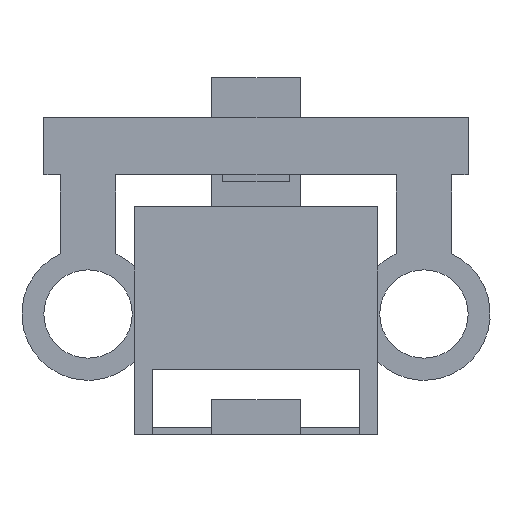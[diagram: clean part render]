
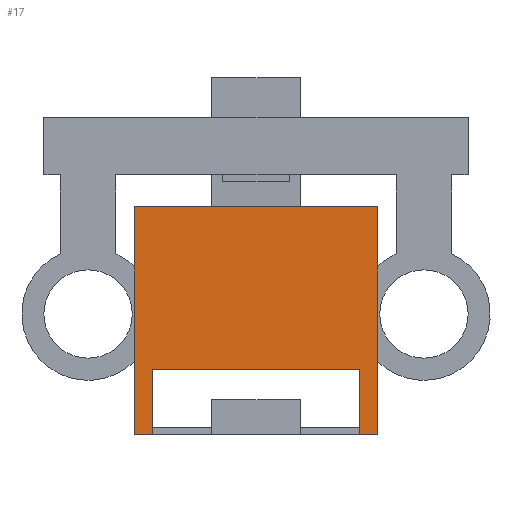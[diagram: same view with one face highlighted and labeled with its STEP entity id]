
A CAD part, left-side view. The second image highlights one B-rep face of the part: STEP entity #17.
In plain terms, the highlighted planar face has unit normal (-1, 0, 0).
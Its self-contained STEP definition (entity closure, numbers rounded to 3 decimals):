
#17 = ADVANCED_FACE('',(#18),#32,.F.);
#18 = FACE_BOUND('',#19,.F.);
#19 = EDGE_LOOP('',(#20,#55,#83,#111,#139,#167,#195,#218));
#20 = ORIENTED_EDGE('',*,*,#21,.F.);
#21 = EDGE_CURVE('',#22,#24,#26,.T.);
#22 = VERTEX_POINT('',#23);
#23 = CARTESIAN_POINT('',(32.5,24.5,4.85));
#24 = VERTEX_POINT('',#25);
#25 = CARTESIAN_POINT('',(32.5,35.5,4.85));
#26 = SURFACE_CURVE('',#27,(#31,#43),.PCURVE_S1.);
#27 = LINE('',#28,#29);
#28 = CARTESIAN_POINT('',(32.5,24.5,4.85));
#29 = VECTOR('',#30,1.);
#30 = DIRECTION('',(0.,1.,0.));
#31 = PCURVE('',#32,#37);
#32 = PLANE('',#33);
#33 = AXIS2_PLACEMENT_3D('',#34,#35,#36);
#34 = CARTESIAN_POINT('',(32.5,24.5,-5.45));
#35 = DIRECTION('',(1.,0.,0.));
#36 = DIRECTION('',(0.,0.,1.));
#37 = DEFINITIONAL_REPRESENTATION('',(#38),#42);
#38 = LINE('',#39,#40);
#39 = CARTESIAN_POINT('',(10.3,0.));
#40 = VECTOR('',#41,1.);
#41 = DIRECTION('',(0.,-1.));
#42 = ( GEOMETRIC_REPRESENTATION_CONTEXT(2) 
PARAMETRIC_REPRESENTATION_CONTEXT() REPRESENTATION_CONTEXT('2D SPACE',''
  ) );
#43 = PCURVE('',#44,#49);
#44 = PLANE('',#45);
#45 = AXIS2_PLACEMENT_3D('',#46,#47,#48);
#46 = CARTESIAN_POINT('',(32.5,24.5,4.85));
#47 = DIRECTION('',(0.,0.,1.));
#48 = DIRECTION('',(1.,0.,-0.));
#49 = DEFINITIONAL_REPRESENTATION('',(#50),#54);
#50 = LINE('',#51,#52);
#51 = CARTESIAN_POINT('',(0.,0.));
#52 = VECTOR('',#53,1.);
#53 = DIRECTION('',(0.,1.));
#54 = ( GEOMETRIC_REPRESENTATION_CONTEXT(2) 
PARAMETRIC_REPRESENTATION_CONTEXT() REPRESENTATION_CONTEXT('2D SPACE',''
  ) );
#55 = ORIENTED_EDGE('',*,*,#56,.F.);
#56 = EDGE_CURVE('',#57,#22,#59,.T.);
#57 = VERTEX_POINT('',#58);
#58 = CARTESIAN_POINT('',(32.5,24.5,-5.45));
#59 = SURFACE_CURVE('',#60,(#64,#71),.PCURVE_S1.);
#60 = LINE('',#61,#62);
#61 = CARTESIAN_POINT('',(32.5,24.5,-5.45));
#62 = VECTOR('',#63,1.);
#63 = DIRECTION('',(0.,0.,1.));
#64 = PCURVE('',#32,#65);
#65 = DEFINITIONAL_REPRESENTATION('',(#66),#70);
#66 = LINE('',#67,#68);
#67 = CARTESIAN_POINT('',(0.,0.));
#68 = VECTOR('',#69,1.);
#69 = DIRECTION('',(1.,0.));
#70 = ( GEOMETRIC_REPRESENTATION_CONTEXT(2) 
PARAMETRIC_REPRESENTATION_CONTEXT() REPRESENTATION_CONTEXT('2D SPACE',''
  ) );
#71 = PCURVE('',#72,#77);
#72 = PLANE('',#73);
#73 = AXIS2_PLACEMENT_3D('',#74,#75,#76);
#74 = CARTESIAN_POINT('',(32.5,24.5,-5.45));
#75 = DIRECTION('',(0.,1.,0.));
#76 = DIRECTION('',(0.,-0.,1.));
#77 = DEFINITIONAL_REPRESENTATION('',(#78),#82);
#78 = LINE('',#79,#80);
#79 = CARTESIAN_POINT('',(0.,0.));
#80 = VECTOR('',#81,1.);
#81 = DIRECTION('',(1.,0.));
#82 = ( GEOMETRIC_REPRESENTATION_CONTEXT(2) 
PARAMETRIC_REPRESENTATION_CONTEXT() REPRESENTATION_CONTEXT('2D SPACE',''
  ) );
#83 = ORIENTED_EDGE('',*,*,#84,.T.);
#84 = EDGE_CURVE('',#57,#85,#87,.T.);
#85 = VERTEX_POINT('',#86);
#86 = CARTESIAN_POINT('',(32.5,25.3,-5.45));
#87 = SURFACE_CURVE('',#88,(#92,#99),.PCURVE_S1.);
#88 = LINE('',#89,#90);
#89 = CARTESIAN_POINT('',(32.5,24.5,-5.45));
#90 = VECTOR('',#91,1.);
#91 = DIRECTION('',(0.,1.,0.));
#92 = PCURVE('',#32,#93);
#93 = DEFINITIONAL_REPRESENTATION('',(#94),#98);
#94 = LINE('',#95,#96);
#95 = CARTESIAN_POINT('',(0.,0.));
#96 = VECTOR('',#97,1.);
#97 = DIRECTION('',(0.,-1.));
#98 = ( GEOMETRIC_REPRESENTATION_CONTEXT(2) 
PARAMETRIC_REPRESENTATION_CONTEXT() REPRESENTATION_CONTEXT('2D SPACE',''
  ) );
#99 = PCURVE('',#100,#105);
#100 = PLANE('',#101);
#101 = AXIS2_PLACEMENT_3D('',#102,#103,#104);
#102 = CARTESIAN_POINT('',(32.5,24.5,-5.45));
#103 = DIRECTION('',(0.,0.,1.));
#104 = DIRECTION('',(1.,0.,-0.));
#105 = DEFINITIONAL_REPRESENTATION('',(#106),#110);
#106 = LINE('',#107,#108);
#107 = CARTESIAN_POINT('',(0.,0.));
#108 = VECTOR('',#109,1.);
#109 = DIRECTION('',(0.,1.));
#110 = ( GEOMETRIC_REPRESENTATION_CONTEXT(2) 
PARAMETRIC_REPRESENTATION_CONTEXT() REPRESENTATION_CONTEXT('2D SPACE',''
  ) );
#111 = ORIENTED_EDGE('',*,*,#112,.T.);
#112 = EDGE_CURVE('',#85,#113,#115,.T.);
#113 = VERTEX_POINT('',#114);
#114 = CARTESIAN_POINT('',(32.5,25.3,-2.5));
#115 = SURFACE_CURVE('',#116,(#120,#127),.PCURVE_S1.);
#116 = LINE('',#117,#118);
#117 = CARTESIAN_POINT('',(32.5,25.3,-6.475));
#118 = VECTOR('',#119,1.);
#119 = DIRECTION('',(0.,0.,1.));
#120 = PCURVE('',#32,#121);
#121 = DEFINITIONAL_REPRESENTATION('',(#122),#126);
#122 = LINE('',#123,#124);
#123 = CARTESIAN_POINT('',(-1.025,-0.8));
#124 = VECTOR('',#125,1.);
#125 = DIRECTION('',(1.,0.));
#126 = ( GEOMETRIC_REPRESENTATION_CONTEXT(2) 
PARAMETRIC_REPRESENTATION_CONTEXT() REPRESENTATION_CONTEXT('2D SPACE',''
  ) );
#127 = PCURVE('',#128,#133);
#128 = PLANE('',#129);
#129 = AXIS2_PLACEMENT_3D('',#130,#131,#132);
#130 = CARTESIAN_POINT('',(32.,25.3,-7.5));
#131 = DIRECTION('',(0.,1.,0.));
#132 = DIRECTION('',(0.,-0.,1.));
#133 = DEFINITIONAL_REPRESENTATION('',(#134),#138);
#134 = LINE('',#135,#136);
#135 = CARTESIAN_POINT('',(1.025,0.5));
#136 = VECTOR('',#137,1.);
#137 = DIRECTION('',(1.,0.));
#138 = ( GEOMETRIC_REPRESENTATION_CONTEXT(2) 
PARAMETRIC_REPRESENTATION_CONTEXT() REPRESENTATION_CONTEXT('2D SPACE',''
  ) );
#139 = ORIENTED_EDGE('',*,*,#140,.F.);
#140 = EDGE_CURVE('',#141,#113,#143,.T.);
#141 = VERTEX_POINT('',#142);
#142 = CARTESIAN_POINT('',(32.5,34.7,-2.5));
#143 = SURFACE_CURVE('',#144,(#148,#155),.PCURVE_S1.);
#144 = LINE('',#145,#146);
#145 = CARTESIAN_POINT('',(32.5,24.9,-2.5));
#146 = VECTOR('',#147,1.);
#147 = DIRECTION('',(0.,-1.,0.));
#148 = PCURVE('',#32,#149);
#149 = DEFINITIONAL_REPRESENTATION('',(#150),#154);
#150 = LINE('',#151,#152);
#151 = CARTESIAN_POINT('',(2.95,-0.4));
#152 = VECTOR('',#153,1.);
#153 = DIRECTION('',(0.,1.));
#154 = ( GEOMETRIC_REPRESENTATION_CONTEXT(2) 
PARAMETRIC_REPRESENTATION_CONTEXT() REPRESENTATION_CONTEXT('2D SPACE',''
  ) );
#155 = PCURVE('',#156,#161);
#156 = PLANE('',#157);
#157 = AXIS2_PLACEMENT_3D('',#158,#159,#160);
#158 = CARTESIAN_POINT('',(32.,25.3,-2.5));
#159 = DIRECTION('',(0.,0.,1.));
#160 = DIRECTION('',(1.,0.,-0.));
#161 = DEFINITIONAL_REPRESENTATION('',(#162),#166);
#162 = LINE('',#163,#164);
#163 = CARTESIAN_POINT('',(0.5,-0.4));
#164 = VECTOR('',#165,1.);
#165 = DIRECTION('',(0.,-1.));
#166 = ( GEOMETRIC_REPRESENTATION_CONTEXT(2) 
PARAMETRIC_REPRESENTATION_CONTEXT() REPRESENTATION_CONTEXT('2D SPACE',''
  ) );
#167 = ORIENTED_EDGE('',*,*,#168,.F.);
#168 = EDGE_CURVE('',#169,#141,#171,.T.);
#169 = VERTEX_POINT('',#170);
#170 = CARTESIAN_POINT('',(32.5,34.7,-5.45));
#171 = SURFACE_CURVE('',#172,(#176,#183),.PCURVE_S1.);
#172 = LINE('',#173,#174);
#173 = CARTESIAN_POINT('',(32.5,34.7,-6.475));
#174 = VECTOR('',#175,1.);
#175 = DIRECTION('',(0.,0.,1.));
#176 = PCURVE('',#32,#177);
#177 = DEFINITIONAL_REPRESENTATION('',(#178),#182);
#178 = LINE('',#179,#180);
#179 = CARTESIAN_POINT('',(-1.025,-10.2));
#180 = VECTOR('',#181,1.);
#181 = DIRECTION('',(1.,0.));
#182 = ( GEOMETRIC_REPRESENTATION_CONTEXT(2) 
PARAMETRIC_REPRESENTATION_CONTEXT() REPRESENTATION_CONTEXT('2D SPACE',''
  ) );
#183 = PCURVE('',#184,#189);
#184 = PLANE('',#185);
#185 = AXIS2_PLACEMENT_3D('',#186,#187,#188);
#186 = CARTESIAN_POINT('',(32.,34.7,-7.5));
#187 = DIRECTION('',(0.,1.,0.));
#188 = DIRECTION('',(0.,-0.,1.));
#189 = DEFINITIONAL_REPRESENTATION('',(#190),#194);
#190 = LINE('',#191,#192);
#191 = CARTESIAN_POINT('',(1.025,0.5));
#192 = VECTOR('',#193,1.);
#193 = DIRECTION('',(1.,0.));
#194 = ( GEOMETRIC_REPRESENTATION_CONTEXT(2) 
PARAMETRIC_REPRESENTATION_CONTEXT() REPRESENTATION_CONTEXT('2D SPACE',''
  ) );
#195 = ORIENTED_EDGE('',*,*,#196,.T.);
#196 = EDGE_CURVE('',#169,#197,#199,.T.);
#197 = VERTEX_POINT('',#198);
#198 = CARTESIAN_POINT('',(32.5,35.5,-5.45));
#199 = SURFACE_CURVE('',#200,(#204,#211),.PCURVE_S1.);
#200 = LINE('',#201,#202);
#201 = CARTESIAN_POINT('',(32.5,24.5,-5.45));
#202 = VECTOR('',#203,1.);
#203 = DIRECTION('',(0.,1.,0.));
#204 = PCURVE('',#32,#205);
#205 = DEFINITIONAL_REPRESENTATION('',(#206),#210);
#206 = LINE('',#207,#208);
#207 = CARTESIAN_POINT('',(0.,0.));
#208 = VECTOR('',#209,1.);
#209 = DIRECTION('',(0.,-1.));
#210 = ( GEOMETRIC_REPRESENTATION_CONTEXT(2) 
PARAMETRIC_REPRESENTATION_CONTEXT() REPRESENTATION_CONTEXT('2D SPACE',''
  ) );
#211 = PCURVE('',#100,#212);
#212 = DEFINITIONAL_REPRESENTATION('',(#213),#217);
#213 = LINE('',#214,#215);
#214 = CARTESIAN_POINT('',(0.,0.));
#215 = VECTOR('',#216,1.);
#216 = DIRECTION('',(0.,1.));
#217 = ( GEOMETRIC_REPRESENTATION_CONTEXT(2) 
PARAMETRIC_REPRESENTATION_CONTEXT() REPRESENTATION_CONTEXT('2D SPACE',''
  ) );
#218 = ORIENTED_EDGE('',*,*,#219,.T.);
#219 = EDGE_CURVE('',#197,#24,#220,.T.);
#220 = SURFACE_CURVE('',#221,(#225,#232),.PCURVE_S1.);
#221 = LINE('',#222,#223);
#222 = CARTESIAN_POINT('',(32.5,35.5,-5.45));
#223 = VECTOR('',#224,1.);
#224 = DIRECTION('',(0.,0.,1.));
#225 = PCURVE('',#32,#226);
#226 = DEFINITIONAL_REPRESENTATION('',(#227),#231);
#227 = LINE('',#228,#229);
#228 = CARTESIAN_POINT('',(0.,-11.));
#229 = VECTOR('',#230,1.);
#230 = DIRECTION('',(1.,0.));
#231 = ( GEOMETRIC_REPRESENTATION_CONTEXT(2) 
PARAMETRIC_REPRESENTATION_CONTEXT() REPRESENTATION_CONTEXT('2D SPACE',''
  ) );
#232 = PCURVE('',#233,#238);
#233 = PLANE('',#234);
#234 = AXIS2_PLACEMENT_3D('',#235,#236,#237);
#235 = CARTESIAN_POINT('',(32.5,35.5,-5.45));
#236 = DIRECTION('',(0.,1.,0.));
#237 = DIRECTION('',(0.,-0.,1.));
#238 = DEFINITIONAL_REPRESENTATION('',(#239),#243);
#239 = LINE('',#240,#241);
#240 = CARTESIAN_POINT('',(0.,0.));
#241 = VECTOR('',#242,1.);
#242 = DIRECTION('',(1.,0.));
#243 = ( GEOMETRIC_REPRESENTATION_CONTEXT(2) 
PARAMETRIC_REPRESENTATION_CONTEXT() REPRESENTATION_CONTEXT('2D SPACE',''
  ) );
